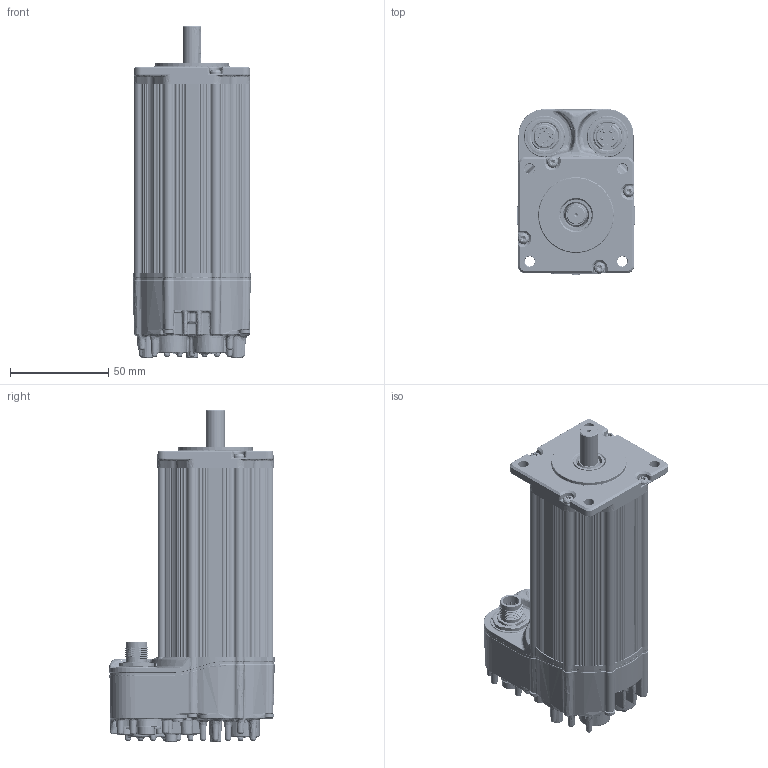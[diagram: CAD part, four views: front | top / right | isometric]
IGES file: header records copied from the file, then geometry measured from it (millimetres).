
Start section: SolidWorks IGES file using analytic representation for surfaces
Global section: file name: C:\TeknicPDM\EtherPath CPM-S\EtherPath CPM-S Customer Files\CPM-S Customer Models\CPMS 234x.igs; native system: SolidWorks 2020; preprocessor: SolidWorks 2020; author: mike_berezny; date: 241007.172303; units: inch
Bounding box: 60.26 x 84.12 x 168.81 mm (x, y, z)
Surface area: 135785.3 mm2 (no closed solid volume)
Topology: 0 solids, 0 shells, 11915 faces, 105716 edges, 104968 vertices
Faces by surface type: bspline 6228, revolution 5687
